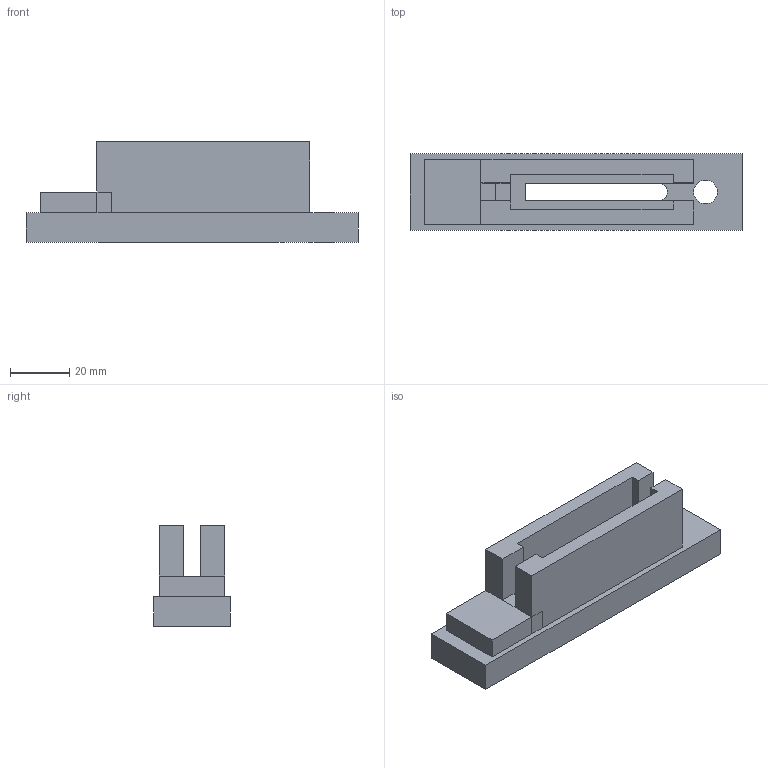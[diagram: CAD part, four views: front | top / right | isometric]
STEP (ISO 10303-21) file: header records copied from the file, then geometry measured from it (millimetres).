
FILE_DESCRIPTION(('Open CASCADE Model'),'2;1');
FILE_NAME('Open CASCADE Shape Model','2026-08-09T10:34:43',('Author'),( 'Open CASCADE'),'Open CASCADE STEP processor 7.9','Open CASCADE 7.9' ,'Unknown');
FILE_SCHEMA(('AUTOMOTIVE_DESIGN { 1 0 10303 214 1 1 1 1 }'));
Length unit declared in the file: millimetre
Products named in the file (1): Open CASCADE STEP translator 7.9 1
Bounding box: 112.3 x 26 x 34 mm (x, y, z)
Volume: 50206.5 mm3; surface area: 17568 mm2
Topology: 1 solids, 1 shells, 44 faces, 117 edges, 75 vertices
Faces by surface type: plane 40, cylinder 4
Full cylindrical faces by diameter (mm): 8 x1
Entity records: 2822 total; most frequent: CARTESIAN_POINT 527, DIRECTION 395, LINE 273, VECTOR 273, ORIENTED_EDGE 234, PCURVE 234, DEFINITIONAL_REPRESENTATION 234, EDGE_CURVE 117
